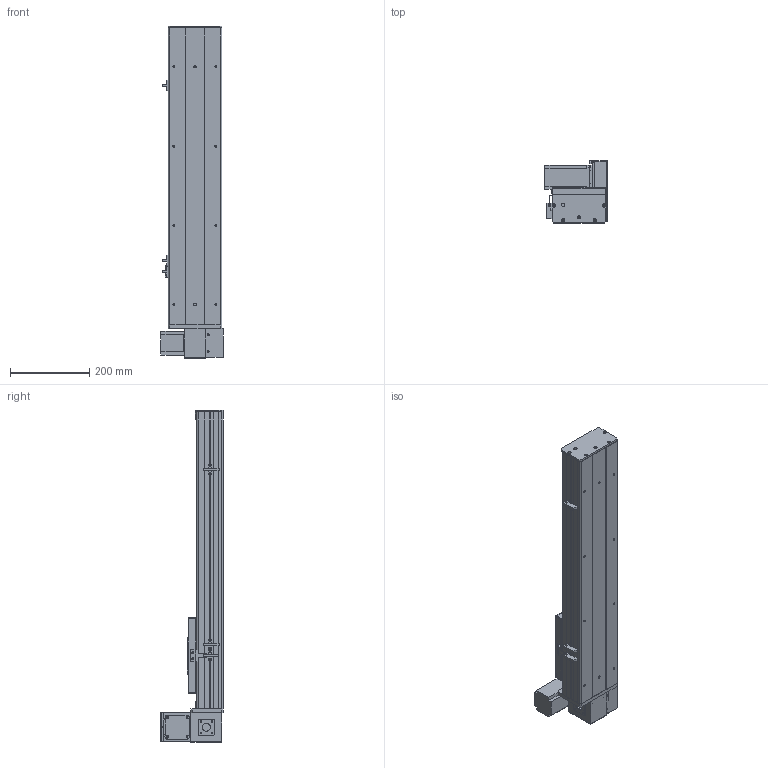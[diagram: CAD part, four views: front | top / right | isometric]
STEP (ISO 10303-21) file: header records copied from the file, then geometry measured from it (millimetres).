
FILE_DESCRIPTION (( 'STEP AP203' ), '1' );
FILE_NAME ('Y135CB-D90-S450-UL-P400W.STEP', '2020-02-18T07:06:20', ( '微软用户' ), ( '微软中国' ), 'SwSTEP 2.0', 'SolidWorks 2017', '' );
FILE_SCHEMA (( 'CONFIG_CONTROL_DESIGN' ));
Length unit declared in the file: millimetre
Products named in the file (18): Y135C-陔俋离換覜結え-; 0B-埴倛裔啣; 5C--俋欶; 0B-源倛裔啣; C-雄赽釱--; 0B-萇儂楊擘啣; Y10B-耜蚾蟀諉啣----; san松下电机400不带刹车----; 00B-俋欶BM--; 5CB --掛极耜裔啣-; Y10B--々湍喘謫眊--666; C-詩湍揤踡え-陔; Y135CB-耜裔; Y135CB-D90-S450-UL-P400W; 135CB--詩湍-CE; 135CB---遴掛极.-; Y100-135俋离換覜ん--; 35CB---喘謫眊楊擘啣
Assembly tree (21 placements, depth 2):
  Y135CB-D90-S450-UL-P400W
    Y135CB-耜裔
    135CB---遴掛极.-
    35CB---喘謫眊楊擘啣
    0B-埴倛裔啣
    0B-源倛裔啣
    0B-萇儂楊擘啣
    san松下电机400不带刹车----
    5CB --掛极耜裔啣-  x2
    C-詩湍揤踡え-陔  x2
    135CB--詩湍-CE
    Y100-135俋离換覜ん--  x3
    Y135C-陔俋离換覜結え-
    5C--俋欶
    C-雄赽釱--
    Y10B-耜蚾蟀諉啣----
    00B-俋欶BM--
    Y10B--々湍喘謫眊--666
Bounding box: 157 x 158.7 x 838 mm (x, y, z)
Volume: 2958208.4 mm3; surface area: 1142806.8 mm2
Topology: 21 solids, 21 shells, 933 faces, 2473 edges, 1638 vertices
Faces by surface type: cylinder 461, plane 456, cone 16
Entity records: 28743 total; most frequent: DIRECTION 4773, CARTESIAN_POINT 4680, ORIENTED_EDGE 4422, EDGE_CURVE 2211, AXIS2_PLACEMENT_3D 1735, VERTEX_POINT 1466, VECTOR 1303, LINE 1303
